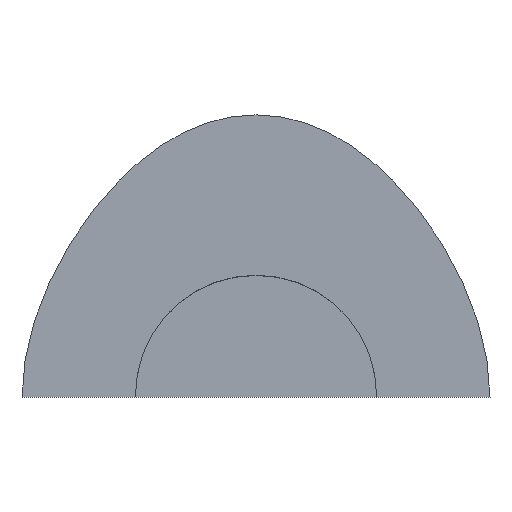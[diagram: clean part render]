
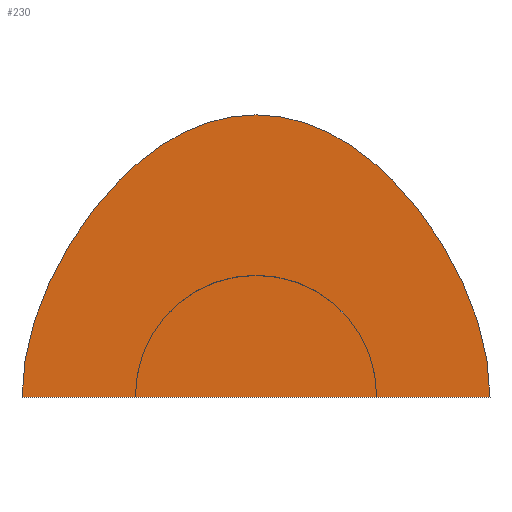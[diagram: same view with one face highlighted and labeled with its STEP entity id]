
A CAD part, top view. The second image highlights one B-rep face of the part: STEP entity #230.
In plain terms, the highlighted planar face has unit normal (0, 0, 1).
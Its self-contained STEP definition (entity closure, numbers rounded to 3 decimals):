
#193=CARTESIAN_POINT('Axis2P3D Location',(0.,47.422,0.)) ;
#198=CARTESIAN_POINT('Line Origine',(0.,0.,0.)) ;
#202=CARTESIAN_POINT('Vertex',(-97.,0.,0.)) ;
#204=CARTESIAN_POINT('Vertex',(97.,0.,0.)) ;
#208=CARTESIAN_POINT('Control Point',(0.,117.,0.)) ;
#209=CARTESIAN_POINT('Control Point',(30.396,117.,0.)) ;
#210=CARTESIAN_POINT('Control Point',(58.446,99.149,0.)) ;
#211=CARTESIAN_POINT('Control Point',(84.149,63.446,0.)) ;
#212=CARTESIAN_POINT('Control Point',(97.,30.396,0.)) ;
#213=CARTESIAN_POINT('Control Point',(97.,0.,0.)) ;
#214=CARTESIAN_POINT('Vertex',(0.,117.,0.)) ;
#218=CARTESIAN_POINT('Control Point',(0.,117.,0.)) ;
#219=CARTESIAN_POINT('Control Point',(-30.396,117.,0.)) ;
#220=CARTESIAN_POINT('Control Point',(-58.446,99.149,0.)) ;
#221=CARTESIAN_POINT('Control Point',(-84.149,63.446,0.)) ;
#222=CARTESIAN_POINT('Control Point',(-97.,30.396,0.)) ;
#223=CARTESIAN_POINT('Control Point',(-97.,0.,0.)) ;
#194=DIRECTION('Axis2P3D Direction',(0.,0.,1.)) ;
#195=DIRECTION('Axis2P3D XDirection',(1.,0.,0.)) ;
#199=DIRECTION('Vector Direction',(1.,0.,0.)) ;
#196=AXIS2_PLACEMENT_3D('Plane Axis2P3D',#193,#194,#195) ;
#226=ORIENTED_EDGE('',*,*,#206,.T.) ;
#227=ORIENTED_EDGE('',*,*,#216,.T.) ;
#228=ORIENTED_EDGE('',*,*,#224,.T.) ;
#200=VECTOR('Line Direction',#199,1.) ;
#230=ADVANCED_FACE('Fill.1',(#229),#197,.T.) ;
#207=B_SPLINE_CURVE_WITH_KNOTS('',5,(#208,#209,#210,#211,#212,#213),.UNSPECIFIED.,.F.,.U.,(6,6),(0.,151.98),.UNSPECIFIED.) ;
#217=B_SPLINE_CURVE_WITH_KNOTS('',5,(#218,#219,#220,#221,#222,#223),.UNSPECIFIED.,.F.,.U.,(6,6),(0.,151.98),.UNSPECIFIED.) ;
#206=EDGE_CURVE('',#203,#205,#201,.T.) ;
#216=EDGE_CURVE('',#205,#215,#207,.F.) ;
#224=EDGE_CURVE('',#215,#203,#217,.T.) ;
#225=EDGE_LOOP('',(#226,#227,#228)) ;
#229=FACE_OUTER_BOUND('',#225,.T.) ;
#201=LINE('Line',#198,#200) ;
#197=PLANE('',#196) ;
#203=VERTEX_POINT('',#202) ;
#205=VERTEX_POINT('',#204) ;
#215=VERTEX_POINT('',#214) ;
